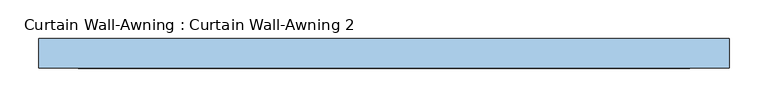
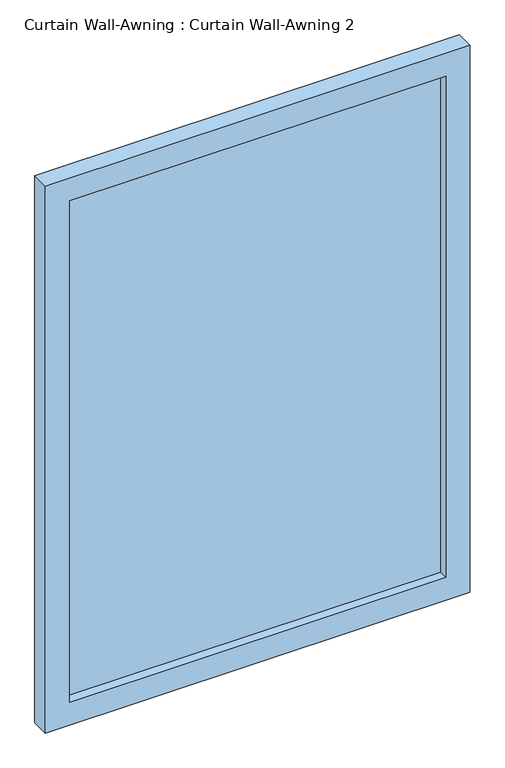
"""IFC4 building model written with IfcOpenShell, lengths in millimetres: window geometry, Curtain Wall-Awning : Curtain Wall-Awning 2."""

from ifc_helpers import new_model, si_unit, frame, origin, place, context, project, spatial, polyline, outline, extrude, source, transform, mapped, element, save


def curtain_wall_awning_curtain_wall_awning_2_e4c29aa6(model_context):
    return source(origin(), model_context, "Body", "SweptSolid", [
        extrude(outline(polyline([(393.9250622, -19.05), (-393.9250622, -19.05), (-393.9250622, -6.35), (393.9250622, -6.35), (393.9250622, -19.05)])), frame((0.0, 0.0, 50.8), z_axis=(0.0, 0.0, 1.0), x_axis=(1.0, 0.0, 0.0)), (0.0, 0.0, 1.0), 1109.0360779),
        extrude(outline(polyline([(1210.6360779, -444.7250622), (0.0, -444.7250622), (0.0, 444.7250622), (1210.6360779, 444.7250622), (1210.6360779, -444.7250622)]), holes=[polyline([(1159.8360779, -393.9250622), (1159.8360779, 393.9250622), (50.8, 393.9250622), (50.8, -393.9250622), (1159.8360779, -393.9250622)])]), frame((0.0, -38.1, 0.0), z_axis=(0.0, 1.0, 0.0), x_axis=(0.0, 0.0, 1.0)), (0.0, 0.0, 1.0), 38.1),
    ])


if __name__ == "__main__":
    model = new_model("IFC4")
    model_context = context("Model", 3, world=origin())
    ifc_project = project(units=[si_unit("LENGTHUNIT", "METRE", prefix="MILLI")], contexts=[model_context])
    site = spatial("IfcSite", under=ifc_project)
    building = spatial("IfcBuilding", under=site)
    placement = place(None, origin())
    curtain_wall_awning_curtain_wall_awning_2_shape = curtain_wall_awning_curtain_wall_awning_2_e4c29aa6(model_context)
    element("IfcWindow", 1, ObjectType="Curtain Wall-Awning : Curtain Wall-Awning 2", at=placement, inside=building, context=model_context, shape_type="MappedRepresentation", body=[
        mapped(curtain_wall_awning_curtain_wall_awning_2_shape, transform((0.0, 0.0, 0.0), x_axis=(1.0, 0.0, 0.0), y_axis=(0.0, 1.0, 0.0), z_axis=(0.0, 0.0, 1.0))),
    ])
    save(model, "model.ifc")
